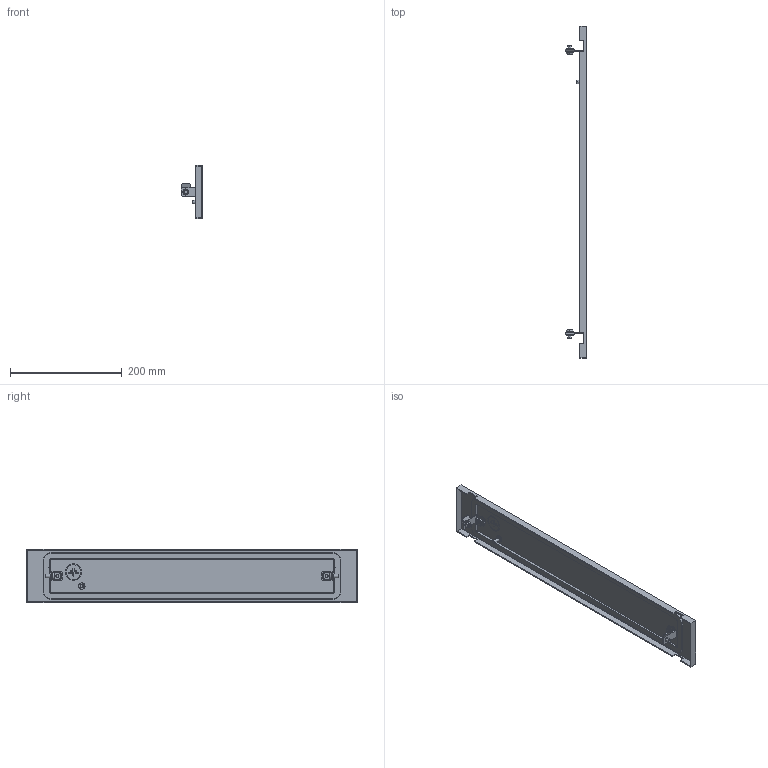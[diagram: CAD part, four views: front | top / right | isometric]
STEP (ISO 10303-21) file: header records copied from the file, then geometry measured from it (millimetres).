
FILE_DESCRIPTION (( 'STEP AP214' ), '1' );
FILE_NAME ('FO-00-PWSB-010-060 Ôàëüø-ïàíåëü âíåøíÿÿ ãëóõàÿ 100õ600 ìì.STEP', '2025-08-21T13:52:23', ( '' ), ( '' ), 'SwSTEP 2.0', 'SolidWorks 2023', '' );
FILE_SCHEMA (( 'AUTOMOTIVE_DESIGN' ));
Length unit declared in the file: millimetre
Products named in the file (1): FO-00-PWSB-010-060 Фальш-панель внешняя глухая 100х600 мм
Bounding box: 38.5 x 595 x 96 mm (x, y, z)
Volume: 189494.3 mm3; surface area: 158205.4 mm2
Topology: 1 solids, 6 shells, 464 faces, 1143 edges, 705 vertices
Faces by surface type: plane 288, cylinder 112, cone 48, torus 16
Entity records: 13826 total; most frequent: CARTESIAN_POINT 2639, DIRECTION 2387, ORIENTED_EDGE 2282, EDGE_CURVE 1141, AXIS2_PLACEMENT_3D 813, LINE 761, VECTOR 761, VERTEX_POINT 705
